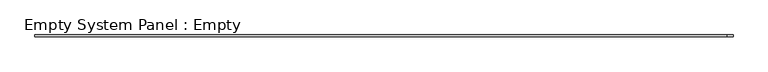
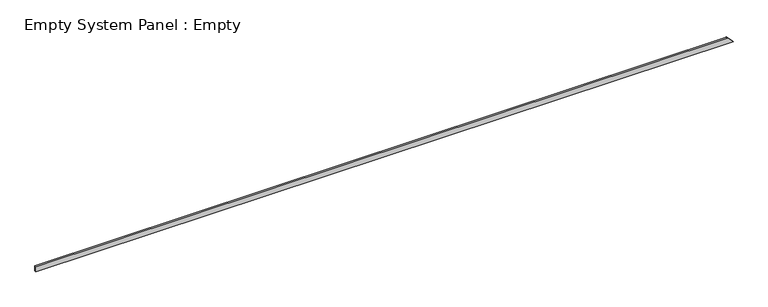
"""IFC4 building model written with IfcOpenShell, lengths in millimetres: plate geometry, Empty System Panel : Empty."""

from ifc_helpers import new_model, si_unit, frame, origin, place, context, project, spatial, polyline, outline, extrude, source, transform, mapped, element, save


def empty_system_panel_empty_8c178459(model_context):
    return source(origin(), model_context, "Body", "SweptSolid", [
        extrude(outline(polyline([(0.0, -19221.1994849), (0.0, 19221.1994849), (330.0, 18894.8504885), (310.0, 18894.8504885), (310.0, -19221.1994849), (0.0, -19221.1994849)])), frame((0.0, -50.0, 0.0), z_axis=(0.0, 1.0, 0.0), x_axis=(0.0, 0.0, 1.0)), (0.0, 0.0, 1.0), 100.0),
    ])


if __name__ == "__main__":
    model = new_model("IFC4")
    model_context = context("Model", 3, world=origin())
    ifc_project = project(units=[si_unit("LENGTHUNIT", "METRE", prefix="MILLI")], contexts=[model_context])
    site = spatial("IfcSite", under=ifc_project)
    building = spatial("IfcBuilding", under=site)
    placement = place(None, origin())
    empty_system_panel_empty_shape = empty_system_panel_empty_8c178459(model_context)
    element("IfcPlate", 1, ObjectType="Empty System Panel : Empty", at=placement, inside=building, context=model_context, shape_type="MappedRepresentation", body=[
        mapped(empty_system_panel_empty_shape, transform((0.0, 0.0, 0.0), x_axis=(1.0, 0.0, 0.0), y_axis=(0.0, 1.0, 0.0), z_axis=(0.0, 0.0, 1.0))),
    ])
    save(model, "model.ifc")
